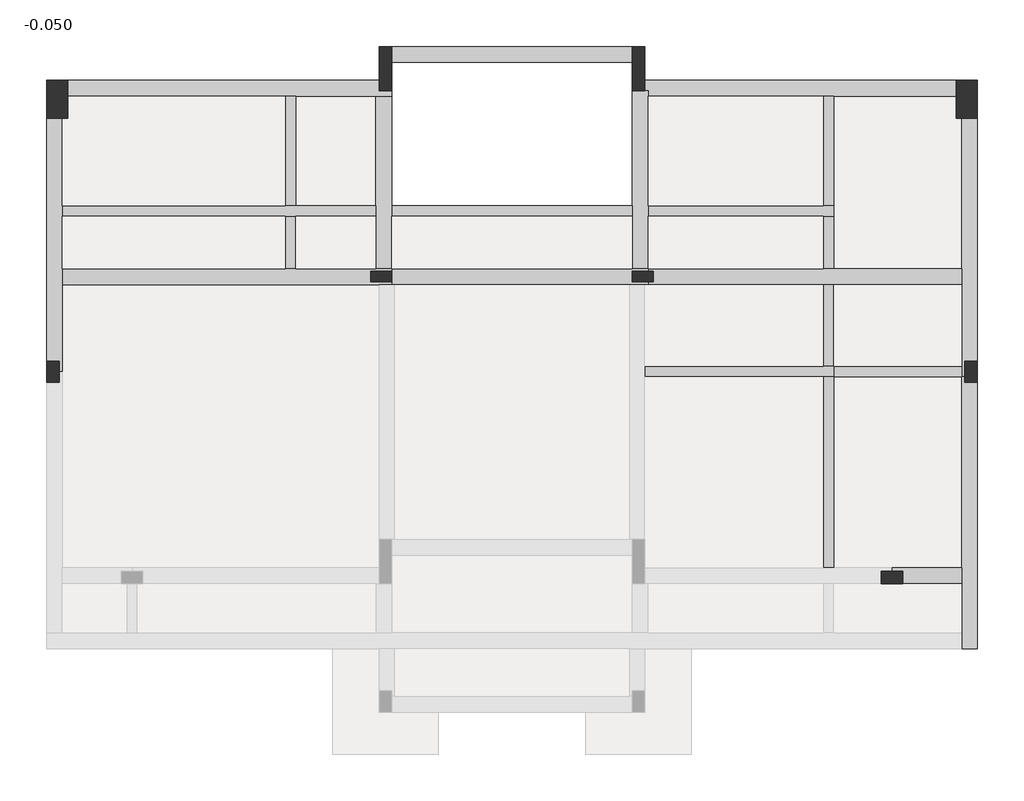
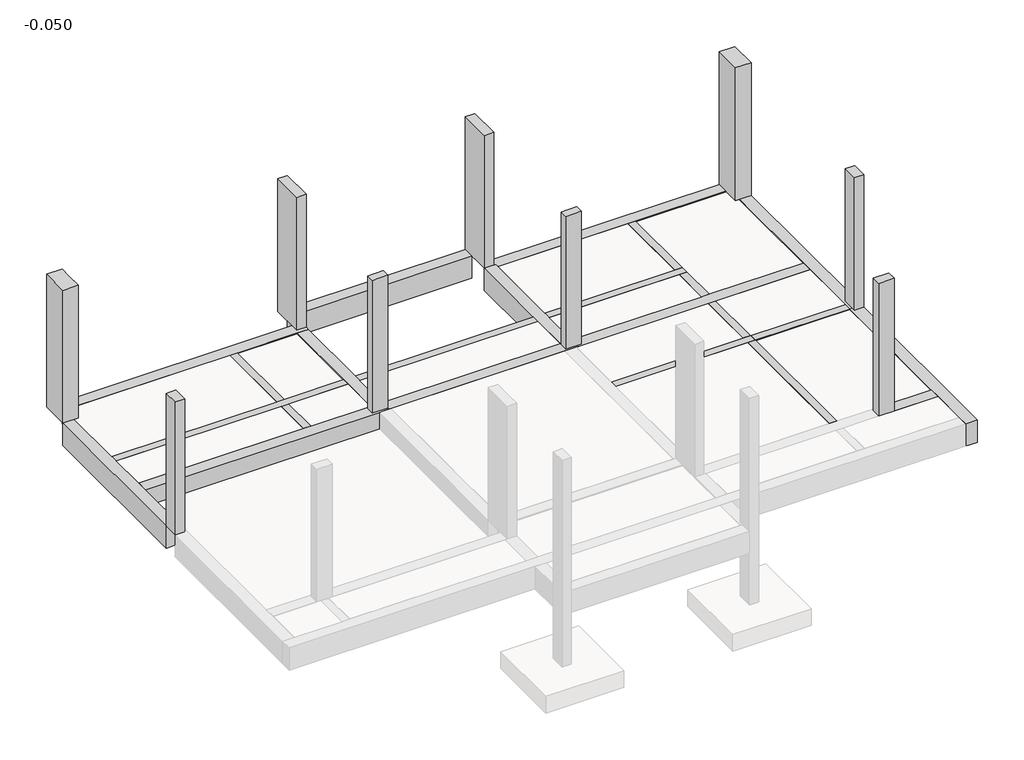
# One storey, part 2 of 2: 23 beams, 9 columns.
"""IFC4 building model written with IfcOpenShell, lengths in millimetres."""

from ifc_helpers import new_model, si_unit, frame, origin, place, context, project, spatial, polyline, outline, extrude, faceted_brep, element, save

model = new_model("IFC4")

# Units and contexts
model_context = context("Model", 3, world=origin())
ifc_project = project(units=[si_unit("LENGTHUNIT", "METRE", prefix="MILLI")], contexts=[model_context])

# Site, building, storey
site = spatial("IfcSite", under=ifc_project)
building = spatial("IfcBuilding", under=site)
storey = spatial("IfcBuildingStorey", under=building, Name="-0.050", Elevation=-50.0)

# Beams
placement = place(None, origin())
element("IfcBeam", 1, ObjectType="混凝土 - 矩形梁 : 200 x 350mm", at=placement, inside=storey, context=model_context, shape_type="Brep", body=[
    faceted_brep([(-13138.804129, 3220.2421091, -50.0), (-13138.804129, 3020.2421091, -50.0), (-8918.804129, 3020.2421091, -50.0), (-8718.804129, 3020.2421091, -50.0), (-7198.804129, 3020.2421091, -50.0), (-7198.804129, 3220.2421091, -50.0), (-8718.804129, 3220.2421091, -50.0), (-8918.804129, 3220.2421091, -50.0), (-13138.804129, 3020.2421091, -150.0), (-13138.804129, 3020.2421091, -400.0), (-8918.804129, 3020.2421091, -400.0), (-8718.804129, 3020.2421091, -400.0), (-7198.804129, 3020.2421091, -400.0), (-7198.804129, 3020.2421091, -150.0), (-13138.804129, 3220.2421091, -400.0), (-8918.804129, 3220.2421091, -400.0), (-8718.804129, 3220.2421091, -400.0), (-7198.804129, 3220.2421091, -400.0), (-13138.804129, 3220.2421091, -150.0), (-7198.804129, 3220.2421091, -70.0), (-7198.804129, 3220.2421091, -170.0)], [[[0, 1, 2, 3, 4, 5, 6, 7]], [[1, 8, 9, 10, 11, 12, 13, 4, 3, 2]], [[9, 14, 15, 16, 17, 12, 11, 10]], [[14, 18, 0, 7, 6, 5, 19, 20, 17, 16, 15]], [[1, 0, 18, 14, 9, 8]], [[5, 4, 13, 12, 17, 20, 19]]]),
])
element("IfcBeam", 2, ObjectType="混凝土 - 矩形梁 : 200 x 350mm", at=placement, inside=storey, context=model_context, shape_type="Brep", body=[
    faceted_brep([(-8718.804129, 5300.2421091, -50.0), (-8918.804129, 5300.2421091, -50.0), (-8918.804129, 3220.2421091, -50.0), (-8718.804129, 3220.2421091, -50.0), (-8918.804129, 5300.2421091, -150.0), (-8918.804129, 5300.2421091, -400.0), (-8918.804129, 3220.2421091, -400.0), (-8918.804129, 3220.2421091, -150.0), (-8718.804129, 5300.2421091, -400.0), (-8718.804129, 3220.2421091, -400.0), (-8718.804129, 5300.2421091, -170.0), (-8718.804129, 5300.2421091, -70.0), (-8718.804129, 3220.2421091, -70.0), (-8718.804129, 3220.2421091, -170.0)], [[[0, 1, 2, 3]], [[1, 4, 5, 6, 7, 2]], [[5, 8, 9, 6]], [[8, 10, 11, 0, 3, 12, 13, 9]], [[1, 0, 11, 10, 8, 5, 4]], [[3, 2, 7, 6, 9, 13, 12]]]),
])
element("IfcBeam", 3, ObjectType="混凝土 - 矩形梁 : 200 x 350mm", at=placement, inside=storey, context=model_context, shape_type="Brep", body=[
    faceted_brep([(-6898.804129, 3220.2421091, -50.0), (-6898.804129, 3020.2421091, -50.0), (-2338.804129, 3020.2421091, -50.0), (-2338.804129, 3220.2421091, -50.0), (-6898.804129, 3020.2421091, -150.0), (-6898.804129, 3020.2421091, -400.0), (-2338.804129, 3020.2421091, -400.0), (-2338.804129, 3020.2421091, -150.0), (-6898.804129, 3220.2421091, -400.0), (-2338.804129, 3220.2421091, -400.0)], [[[0, 1, 2, 3]], [[1, 4, 5, 6, 7, 2]], [[5, 8, 9, 6]], [[8, 0, 3, 9]], [[1, 0, 8, 5, 4]], [[3, 2, 7, 6, 9]]]),
])
element("IfcBeam", 4, ObjectType="混凝土 - 矩形梁 : 200 x 350mm", at=placement, inside=storey, context=model_context, shape_type="Brep", body=[
    faceted_brep([(1481.195871, 3020.2421091, -50.0), (1481.195871, 3220.2421091, -50.0), (1281.195871, 3220.2421091, -50.0), (-2038.804129, 3220.2421091, -50.0), (-2038.804129, 3020.2421091, -50.0), (1281.195871, 3020.2421091, -50.0), (1481.195871, 3020.2421091, -400.0), (-2038.804129, 3020.2421091, -150.0), (-2038.804129, 3020.2421091, -400.0), (1281.195871, 3020.2421091, -400.0), (1481.195871, 3220.2421091, -400.0), (-2038.804129, 3220.2421091, -400.0), (1281.195871, 3220.2421091, -400.0), (-2038.804129, 3220.2421091, -150.0)], [[[0, 1, 2, 3, 4, 5]], [[6, 0, 5, 4, 7, 8, 9]], [[10, 6, 9, 8, 11, 12]], [[1, 10, 12, 11, 13, 3, 2]], [[4, 3, 13, 11, 8, 7]], [[1, 0, 6, 10]]]),
])
element("IfcBeam", 5, ObjectType="混凝土 - 矩形梁 : 200 x 350mm", at=placement, inside=storey, context=model_context, shape_type="Brep", body=[
    faceted_brep([(1481.195871, 5300.2421091, -50.0), (1281.195871, 5300.2421091, -50.0), (1281.195871, 3220.2421091, -50.0), (1481.195871, 3220.2421091, -50.0), (1281.195871, 5300.2421091, -150.0), (1281.195871, 5300.2421091, -400.0), (1281.195871, 3220.2421091, -400.0), (1281.195871, 3220.2421091, -150.0), (1481.195871, 5300.2421091, -400.0), (1481.195871, 3220.2421091, -400.0), (1481.195871, 5300.2421091, -170.0), (1481.195871, 5300.2421091, -70.0)], [[[0, 1, 2, 3]], [[1, 4, 5, 6, 7, 2]], [[5, 8, 9, 6]], [[8, 10, 11, 0, 3, 9]], [[1, 0, 11, 10, 8, 5, 4]], [[3, 2, 7, 6, 9]]]),
])
element("IfcBeam", 6, ObjectType="混凝土 - 矩形梁 : 200 x 350mm", at=placement, inside=storey, context=model_context, shape_type="Brep", body=[
    faceted_brep([(1281.195871, 2030.2421091, -50.0), (1481.195871, 2030.2421091, -50.0), (1481.195871, 3020.2421091, -50.0), (1281.195871, 3020.2421091, -50.0), (1281.195871, 2030.2421091, -400.0), (1281.195871, 2030.2421091, -150.0), (1281.195871, 3020.2421091, -150.0), (1281.195871, 3020.2421091, -400.0), (1481.195871, 2030.2421091, -400.0), (1481.195871, 3020.2421091, -400.0), (1481.195871, 2030.2421091, -70.0), (1481.195871, 2030.2421091, -170.0)], [[[0, 1, 2, 3]], [[4, 5, 0, 3, 6, 7]], [[8, 4, 7, 9]], [[1, 10, 11, 8, 9, 2]], [[1, 0, 5, 4, 8, 11, 10]], [[3, 2, 9, 7, 6]]]),
])
element("IfcBeam", 7, ObjectType="混凝土 - 矩形梁 : 200 x 350mm", at=placement, inside=storey, context=model_context, shape_type="Brep", body=[
    faceted_brep([(-8918.804129, 2030.2421091, -50.0), (-8718.804129, 2030.2421091, -50.0), (-8718.804129, 3020.2421091, -50.0), (-8918.804129, 3020.2421091, -50.0), (-8918.804129, 2030.2421091, -400.0), (-8918.804129, 2030.2421091, -150.0), (-8918.804129, 3020.2421091, -150.0), (-8918.804129, 3020.2421091, -400.0), (-8718.804129, 2030.2421091, -400.0), (-8718.804129, 3020.2421091, -400.0), (-8718.804129, 2030.2421091, -150.0), (-8718.804129, 3020.2421091, -150.0)], [[[0, 1, 2, 3]], [[4, 5, 0, 3, 6, 7]], [[8, 4, 7, 9]], [[1, 10, 8, 9, 11, 2]], [[1, 0, 5, 4, 8, 10]], [[3, 2, 11, 9, 7, 6]]]),
])
element("IfcBeam", 8, ObjectType="混凝土 - 矩形梁 : 200 x 350mm", at=placement, inside=storey, context=model_context, shape_type="Brep", body=[
    faceted_brep([(1481.195871, -19.7578909, -50.0), (1481.195871, 180.2421091, -50.0), (1281.195871, 180.2421091, -50.0), (-2098.804129, 180.2421091, -50.0), (-2098.804129, -19.7578909, -50.0), (1281.195871, -19.7578909, -50.0), (1481.195871, -19.7578909, -400.0), (-2098.804129, -19.7578909, -150.0), (-2098.804129, -19.7578909, -400.0), (1281.195871, -19.7578909, -400.0), (1481.195871, 180.2421091, -400.0), (-2098.804129, 180.2421091, -400.0), (1281.195871, 180.2421091, -400.0), (-2098.804129, 180.2421091, -150.0)], [[[0, 1, 2, 3, 4, 5]], [[6, 0, 5, 4, 7, 8, 9]], [[10, 6, 9, 8, 11, 12]], [[1, 10, 12, 11, 13, 3, 2]], [[4, 3, 13, 11, 8, 7]], [[1, 0, 6, 10]]]),
])
element("IfcBeam", 9, ObjectType="混凝土 - 矩形梁 : 200 x 350mm", at=placement, inside=storey, context=model_context, shape_type="Brep", body=[
    faceted_brep([(3901.195871, -19.7578909, -50.0), (3901.195871, 180.2421091, -50.0), (1481.195871, 180.2421091, -50.0), (1481.195871, -19.7578909, -50.0), (3901.195871, -19.7578909, -400.0), (3901.195871, -19.7578909, -170.0), (3901.195871, -19.7578909, -70.0), (1481.195871, -19.7578909, -70.0), (1481.195871, -19.7578909, -170.0), (1481.195871, -19.7578909, -400.0), (3901.195871, 180.2421091, -400.0), (1481.195871, 180.2421091, -400.0), (3901.195871, 180.2421091, -150.0), (1481.195871, 180.2421091, -150.0)], [[[0, 1, 2, 3]], [[4, 5, 6, 0, 3, 7, 8, 9]], [[10, 4, 9, 11]], [[1, 12, 10, 11, 13, 2]], [[1, 0, 6, 5, 4, 10, 12]], [[3, 2, 13, 11, 9, 8, 7]]]),
])
element("IfcBeam", 10, ObjectType="混凝土 - 矩形梁 : 200 x 350mm", at=placement, inside=storey, context=model_context, shape_type="Brep", body=[
    faceted_brep([(1281.195871, 180.2421091, -50.0), (1481.195871, 180.2421091, -50.0), (1481.195871, 1730.2421091, -50.0), (1281.195871, 1730.2421091, -50.0), (1281.195871, 180.2421091, -400.0), (1281.195871, 180.2421091, -150.0), (1281.195871, 1730.2421091, -150.0), (1281.195871, 1730.2421091, -400.0), (1481.195871, 180.2421091, -400.0), (1481.195871, 1730.2421091, -400.0), (1481.195871, 180.2421091, -150.0), (1481.195871, 1730.2421091, -150.0)], [[[0, 1, 2, 3]], [[4, 5, 0, 3, 6, 7]], [[8, 4, 7, 9]], [[1, 10, 8, 9, 11, 2]], [[1, 0, 5, 4, 8, 10]], [[3, 2, 11, 9, 7, 6]]]),
])
element("IfcBeam", 11, ObjectType="混凝土 - 矩形梁 : 200 x 350mm", at=placement, inside=storey, context=model_context, shape_type="Brep", body=[
    faceted_brep([(1481.195871, -19.7578909, -50.0), (1281.195871, -19.7578909, -50.0), (1281.195871, -3639.7578909, -50.0), (1481.195871, -3639.7578909, -50.0), (1281.195871, -19.7578909, -150.0), (1281.195871, -19.7578909, -400.0), (1281.195871, -3639.7578909, -400.0), (1281.195871, -3639.7578909, -150.0), (1481.195871, -19.7578909, -400.0), (1481.195871, -3639.7578909, -400.0), (1481.195871, -19.7578909, -170.0), (1481.195871, -19.7578909, -70.0), (1481.195871, -3639.7578909, -70.0), (1481.195871, -3639.7578909, -170.0)], [[[0, 1, 2, 3]], [[1, 4, 5, 6, 7, 2]], [[5, 8, 9, 6]], [[8, 10, 11, 0, 3, 12, 13, 9]], [[1, 0, 11, 10, 8, 5, 4]], [[3, 2, 7, 6, 9, 13, 12]]]),
])
element("IfcBeam", 12, ObjectType="混凝土 - 矩形梁 : 300 x 600mm", at=placement, inside=storey, context=model_context, shape_type="Brep", body=[
    faceted_brep([(-13038.804129, 5600.2421091, -50.0), (-13038.804129, 5600.2421091, -650.0), (-13038.804129, 5400.2421091, -650.0), (-13038.804129, 5300.2421091, -650.0), (-13038.804129, 5300.2421091, -150.0), (-13038.804129, 5300.2421091, -50.0), (-8918.804129, 5300.2421091, -50.0), (-8718.804129, 5300.2421091, -50.0), (-7198.804129, 5300.2421091, -50.0), (-6898.804129, 5300.2421091, -50.0), (-6898.804129, 5400.2421091, -50.0), (-7138.804129, 5400.2421091, -50.0), (-7138.804129, 5600.2421091, -50.0), (-7198.804129, 5300.2421091, -650.0), (-6898.804129, 5300.2421091, -650.0), (-7138.804129, 5600.2421091, -650.0), (-7138.804129, 5400.2421091, -650.0), (-6898.804129, 5400.2421091, -650.0)], [[[0, 1, 2, 3, 4, 5]], [[0, 5, 6, 7, 8, 9, 10, 11, 12]], [[5, 4, 3, 13, 14, 9, 8, 7, 6]], [[3, 2, 1, 15, 16, 17, 14, 13]], [[1, 0, 12, 15]], [[16, 11, 10, 17]], [[11, 16, 15, 12]], [[9, 14, 17, 10]]]),
])
element("IfcBeam", 13, ObjectType="混凝土 - 矩形梁 : 300 x 600mm", at=placement, inside=storey, context=model_context, shape_type="Brep", body=[
    faceted_brep([(-2338.804129, 6240.2421091, -50.0), (-2338.804129, 5940.2421091, -50.0), (-2338.804129, 5940.2421091, -650.0), (-2338.804129, 6027.4610605, -650.0), (-2338.804129, 6227.4610605, -650.0), (-2338.804129, 6240.2421091, -650.0), (-6898.804129, 6240.2421091, -50.0), (-6898.804129, 5940.2421091, -50.0), (-6898.804129, 5940.2421091, -650.0), (-6898.804129, 6027.4610605, -650.0), (-6898.804129, 6227.4610605, -650.0), (-6898.804129, 6240.2421091, -650.0)], [[[0, 1, 2, 3, 4, 5]], [[1, 0, 6, 7]], [[2, 1, 7, 8]], [[5, 4, 3, 2, 8, 9, 10, 11]], [[0, 5, 11, 6]], [[6, 11, 10, 9, 8, 7]]]),
])
element("IfcBeam", 14, ObjectType="混凝土 - 矩形梁 : 300 x 600mm", at=placement, inside=storey, context=model_context, shape_type="Brep", body=[
    faceted_brep([(3801.195871, 5600.2421091, -50.0), (3801.195871, 5300.2421091, -50.0), (3801.195871, 5300.2421091, -70.0), (3801.195871, 5300.2421091, -170.0), (3801.195871, 5300.2421091, -650.0), (3801.195871, 5400.2421091, -650.0), (3801.195871, 5600.2421091, -650.0), (-2098.804129, 5600.2421091, -50.0), (-2098.804129, 5400.2421091, -50.0), (-2038.804129, 5400.2421091, -50.0), (-2038.804129, 5300.2421091, -50.0), (1281.195871, 5300.2421091, -50.0), (1481.195871, 5300.2421091, -50.0), (-2038.804129, 5300.2421091, -150.0), (-2038.804129, 5300.2421091, -650.0), (-2038.804129, 5400.2421091, -650.0), (-2098.804129, 5400.2421091, -650.0), (-2098.804129, 5600.2421091, -650.0)], [[[0, 1, 2, 3, 4, 5, 6]], [[1, 0, 7, 8, 9, 10, 11, 12]], [[4, 3, 2, 1, 12, 11, 10, 13, 14]], [[6, 5, 4, 14, 15, 16, 17]], [[0, 6, 17, 7]], [[7, 17, 16, 8]], [[9, 15, 14, 13, 10]], [[15, 9, 8, 16]]]),
])
element("IfcBeam", 15, ObjectType="混凝土 - 矩形梁 : 300 x 600mm", at=placement, inside=storey, context=model_context, shape_type="Brep", body=[
    faceted_brep([(4201.195871, 4880.2421091, -50.0), (3901.195871, 4880.2421091, -50.0), (3901.195871, 2030.2421091, -50.0), (3901.195871, 1730.2421091, -50.0), (3901.195871, 180.2421091, -50.0), (3901.195871, -19.7578909, -50.0), (3961.195871, -19.7578909, -50.0), (3961.195871, 280.2421091, -50.0), (4201.195871, 280.2421091, -50.0), (3901.195871, 4880.2421091, -70.0), (3901.195871, 4880.2421091, -170.0), (3901.195871, 4880.2421091, -650.0), (3901.195871, 2030.2421091, -650.0), (3901.195871, 1730.2421091, -650.0), (3901.195871, -19.7578909, -650.0), (3901.195871, -19.7578909, -400.0), (4001.195871, 4880.2421091, -650.0), (4201.195871, 4880.2421091, -650.0), (4201.195871, 280.2421091, -650.0), (4001.195871, 280.2421091, -650.0), (3961.195871, 280.2421091, -650.0), (3961.195871, -19.7578909, -650.0)], [[[0, 1, 2, 3, 4, 5, 6, 7, 8]], [[1, 9, 10, 11, 12, 13, 14, 15, 5, 4, 3, 2]], [[11, 16, 17, 18, 19, 20, 21, 14, 13, 12]], [[17, 0, 8, 18]], [[20, 7, 6, 21]], [[7, 20, 19, 18, 8]], [[0, 17, 16, 11, 10, 9, 1]], [[5, 15, 14, 21, 6]]]),
])
element("IfcBeam", 16, ObjectType="混凝土 - 矩形梁 : 300 x 600mm", at=placement, inside=storey, context=model_context, shape_type="Brep", body=[
    faceted_brep([(3901.195871, -5169.7578909, -50.0), (4201.195871, -5169.7578909, -50.0), (4201.195871, -119.7578909, -50.0), (3961.195871, -119.7578909, -50.0), (3961.195871, -19.7578909, -50.0), (3901.195871, -19.7578909, -50.0), (3901.195871, -3639.7578909, -50.0), (3901.195871, -3939.7578909, -50.0), (3901.195871, -4869.7578909, -50.0), (3901.195871, -5169.7578909, -650.0), (3901.195871, -19.7578909, -70.0), (3901.195871, -19.7578909, -170.0), (3901.195871, -19.7578909, -650.0), (3901.195871, -3639.7578909, -650.0), (3901.195871, -3939.7578909, -650.0), (3901.195871, -4869.7578909, -650.0), (4201.195871, -5169.7578909, -650.0), (3961.195871, -19.7578909, -650.0), (3961.195871, -119.7578909, -650.0), (4001.195871, -119.7578909, -650.0), (4201.195871, -119.7578909, -650.0), (4201.195871, -3739.7578909, -650.0)], [[[0, 1, 2, 3, 4, 5, 6, 7, 8]], [[9, 0, 8, 7, 6, 5, 10, 11, 12, 13, 14, 15]], [[16, 9, 15, 14, 13, 12, 17, 18, 19, 20, 21]], [[1, 16, 21, 20, 2]], [[18, 3, 2, 20, 19]], [[3, 18, 17, 4]], [[1, 0, 9, 16]], [[4, 17, 12, 11, 10, 5]]]),
])
element("IfcBeam", 17, ObjectType="混凝土 - 矩形梁 : 300 x 600mm", at=placement, inside=storey, context=model_context, shape_type="Brep", body=[
    faceted_brep([(2581.195871, -3699.7578909, -50.0), (2781.195871, -3699.7578909, -50.0), (2781.195871, -3939.7578909, -50.0), (3901.195871, -3939.7578909, -50.0), (3901.195871, -3639.7578909, -50.0), (2581.195871, -3639.7578909, -50.0), (2581.195871, -3639.7578909, -650.0), (3901.195871, -3639.7578909, -70.0), (3901.195871, -3639.7578909, -170.0), (3901.195871, -3639.7578909, -650.0), (2781.195871, -3699.7578909, -650.0), (2581.195871, -3699.7578909, -650.0), (3901.195871, -3939.7578909, -650.0), (2781.195871, -3939.7578909, -650.0), (2781.195871, -3739.7578909, -650.0), (3901.195871, -3939.7578909, -150.0)], [[[0, 1, 2, 3, 4, 5]], [[6, 5, 4, 7, 8, 9]], [[10, 11, 6, 9, 12, 13, 14]], [[2, 13, 12, 15, 3]], [[10, 1, 0, 11]], [[1, 10, 14, 13, 2]], [[4, 3, 15, 12, 9, 8, 7]], [[5, 6, 11, 0]]]),
])
element("IfcBeam", 18, ObjectType="混凝土 - 矩形梁 : 300 x 600mm", at=placement, inside=storey, context=model_context, shape_type="Brep", body=[
    faceted_brep([(-13438.804129, 4880.2421091, -50.0), (-13138.804129, 4880.2421091, -50.0), (-13138.804129, 4880.2421091, -150.0), (-13138.804129, 4880.2421091, -650.0), (-13238.804129, 4880.2421091, -650.0), (-13438.804129, 4880.2421091, -650.0), (-13438.804129, 280.2421091, -50.0), (-13198.804129, 280.2421091, -50.0), (-13198.804129, 80.2421091, -50.0), (-13138.804129, 80.2421091, -50.0), (-13138.804129, 1730.2421091, -50.0), (-13138.804129, 2030.2421091, -50.0), (-13138.804129, 3020.2421091, -50.0), (-13138.804129, 3220.2421091, -50.0), (-13138.804129, 80.2421091, -650.0), (-13138.804129, 1730.2421091, -650.0), (-13138.804129, 2030.2421091, -650.0), (-13198.804129, 80.2421091, -650.0), (-13198.804129, 280.2421091, -650.0), (-13238.804129, 280.2421091, -650.0), (-13438.804129, 280.2421091, -650.0)], [[[0, 1, 2, 3, 4, 5]], [[1, 0, 6, 7, 8, 9, 10, 11, 12, 13]], [[3, 2, 1, 13, 12, 11, 10, 9, 14, 15, 16]], [[5, 4, 3, 16, 15, 14, 17, 18, 19, 20]], [[0, 5, 20, 6]], [[14, 9, 8, 17]], [[7, 18, 17, 8]], [[18, 7, 6, 20, 19]]]),
])
element("IfcBeam", 19, ObjectType="混凝土 - 矩形梁 : 300 x 600mm", at=placement, inside=storey, context=model_context, shape_type="Brep", body=[
    faceted_brep([(-7298.804129, 1980.2421091, -50.0), (-6898.804129, 1980.2421091, -50.0), (-6898.804129, 2030.2421091, -50.0), (-7198.804129, 2030.2421091, -50.0), (-8718.804129, 2030.2421091, -50.0), (-8918.804129, 2030.2421091, -50.0), (-13138.804129, 2030.2421091, -50.0), (-13138.804129, 1730.2421091, -50.0), (-7138.804129, 1730.2421091, -50.0), (-6898.804129, 1730.2421091, -50.0), (-6898.804129, 1780.2421091, -50.0), (-7298.804129, 1780.2421091, -50.0), (-6898.804129, 2030.2421091, -650.0), (-7198.804129, 2030.2421091, -650.0), (-13138.804129, 2030.2421091, -650.0), (-13138.804129, 2030.2421091, -150.0), (-6898.804129, 1980.2421091, -650.0), (-7298.804129, 1980.2421091, -650.0), (-7298.804129, 1780.2421091, -650.0), (-6898.804129, 1780.2421091, -650.0), (-6898.804129, 1730.2421091, -650.0), (-7138.804129, 1730.2421091, -650.0), (-13138.804129, 1730.2421091, -650.0), (-13138.804129, 1730.2421091, -500.0)], [[[0, 1, 2, 3, 4, 5, 6, 7, 8, 9, 10, 11]], [[2, 12, 13, 14, 15, 6, 5, 4, 3]], [[16, 17, 18, 19, 20, 21, 22, 14, 13, 12]], [[20, 9, 8, 7, 23, 22, 21]], [[0, 17, 16, 1]], [[18, 11, 10, 19]], [[11, 18, 17, 0]], [[7, 6, 15, 14, 22, 23]], [[12, 2, 1, 16]], [[9, 20, 19, 10]]]),
])
element("IfcBeam", 20, ObjectType="混凝土 - 矩形梁 : 300 x 600mm", at=placement, inside=storey, context=model_context, shape_type="Brep", body=[
    faceted_brep([(-6898.804129, 2030.2421091, -50.0), (-6898.804129, 1980.2421091, -50.0), (-6898.804129, 1780.2421091, -50.0), (-6898.804129, 1730.2421091, -50.0), (-6838.804129, 1730.2421091, -50.0), (-2398.804129, 1730.2421091, -50.0), (-2098.804129, 1730.2421091, -50.0), (-2038.804129, 1730.2421091, -50.0), (-2038.804129, 1780.2421091, -50.0), (-2338.804129, 1780.2421091, -50.0), (-2338.804129, 1980.2421091, -50.0), (-2038.804129, 1980.2421091, -50.0), (-2038.804129, 2030.2421091, -50.0), (-2338.804129, 2030.2421091, -50.0), (-2038.804129, 1730.2421091, -650.0), (-6898.804129, 1730.2421091, -650.0), (-6838.804129, 1730.2421091, -650.0), (-2398.804129, 1730.2421091, -650.0), (-2098.804129, 1730.2421091, -650.0), (-6898.804129, 1780.2421091, -650.0), (-6898.804129, 1980.2421091, -650.0), (-6898.804129, 2030.2421091, -650.0), (-2338.804129, 2030.2421091, -650.0), (-2038.804129, 2030.2421091, -650.0), (-2038.804129, 1980.2421091, -650.0), (-2338.804129, 1980.2421091, -650.0), (-2338.804129, 1780.2421091, -650.0), (-2038.804129, 1780.2421091, -650.0), (-6898.804129, 2030.2421091, -150.0)], [[[0, 1, 2, 3, 4, 5, 6, 7, 8, 9, 10, 11, 12, 13]], [[14, 7, 6, 5, 4, 3, 15, 16, 17, 18]], [[15, 19, 20, 21, 22, 23, 24, 25, 26, 27, 14, 18, 17, 16]], [[21, 28, 0, 13, 12, 23, 22]], [[0, 28, 21, 20, 19, 15, 3, 2, 1]], [[10, 25, 24, 11]], [[26, 9, 8, 27]], [[9, 26, 25, 10]], [[23, 12, 11, 24]], [[7, 14, 27, 8]]]),
])
element("IfcBeam", 21, ObjectType="混凝土 - 矩形梁 : 300 x 600mm", at=placement, inside=storey, context=model_context, shape_type="Brep", body=[
    faceted_brep([(3901.195871, 1730.2421091, -50.0), (3901.195871, 2030.2421091, -50.0), (1481.195871, 2030.2421091, -50.0), (1281.195871, 2030.2421091, -50.0), (-2038.804129, 2030.2421091, -50.0), (-2038.804129, 1980.2421091, -50.0), (-1938.804129, 1980.2421091, -50.0), (-1938.804129, 1780.2421091, -50.0), (-2038.804129, 1780.2421091, -50.0), (-2038.804129, 1730.2421091, -50.0), (1281.195871, 1730.2421091, -50.0), (1481.195871, 1730.2421091, -50.0), (3901.195871, 1730.2421091, -650.0), (3901.195871, 1730.2421091, -150.0), (-2038.804129, 1730.2421091, -650.0), (3901.195871, 2030.2421091, -650.0), (-2038.804129, 1780.2421091, -650.0), (-1938.804129, 1780.2421091, -650.0), (-1938.804129, 1980.2421091, -650.0), (-2038.804129, 1980.2421091, -650.0), (-2038.804129, 2030.2421091, -650.0), (3901.195871, 2030.2421091, -70.0), (3901.195871, 2030.2421091, -170.0), (-2038.804129, 2030.2421091, -150.0)], [[[0, 1, 2, 3, 4, 5, 6, 7, 8, 9, 10, 11]], [[12, 13, 0, 11, 10, 9, 14]], [[15, 12, 14, 16, 17, 18, 19, 20]], [[1, 21, 22, 15, 20, 23, 4, 3, 2]], [[18, 6, 5, 19]], [[6, 18, 17, 7]], [[7, 17, 16, 8]], [[1, 0, 13, 12, 15, 22, 21]], [[5, 4, 23, 20, 19]], [[9, 8, 16, 14]]]),
])
element("IfcBeam", 22, ObjectType="混凝土 - 矩形梁 : 300 x 600mm", at=placement, inside=storey, context=model_context, shape_type="Brep", body=[
    faceted_brep([(-7198.804129, 2030.2421091, -50.0), (-6898.804129, 2030.2421091, -50.0), (-6898.804129, 3020.2421091, -50.0), (-6898.804129, 3220.2421091, -50.0), (-6898.804129, 5300.2421091, -50.0), (-7198.804129, 5300.2421091, -50.0), (-7198.804129, 3220.2421091, -50.0), (-7198.804129, 3020.2421091, -50.0), (-7198.804129, 2030.2421091, -650.0), (-7198.804129, 2030.2421091, -150.0), (-7198.804129, 5300.2421091, -70.0), (-7198.804129, 5300.2421091, -170.0), (-7198.804129, 5300.2421091, -650.0), (-6898.804129, 2030.2421091, -650.0), (-6898.804129, 5300.2421091, -650.0), (-6898.804129, 2030.2421091, -150.0)], [[[0, 1, 2, 3, 4, 5, 6, 7]], [[8, 9, 0, 7, 6, 5, 10, 11, 12]], [[13, 8, 12, 14]], [[1, 15, 13, 14, 4, 3, 2]], [[1, 0, 9, 8, 13, 15]], [[5, 4, 14, 12, 11, 10]]]),
])
element("IfcBeam", 23, ObjectType="混凝土 - 矩形梁 : 300 x 600mm", at=placement, inside=storey, context=model_context, shape_type="Brep", body=[
    faceted_brep([(-2338.804129, 5400.2421091, -650.0), (-2338.804129, 5400.2421091, -50.0), (-2098.804129, 5400.2421091, -50.0), (-2038.804129, 5400.2421091, -50.0), (-2038.804129, 5400.2421091, -650.0), (-2098.804129, 5400.2421091, -650.0), (-2338.804129, 3220.2421091, -50.0), (-2338.804129, 3020.2421091, -50.0), (-2338.804129, 2030.2421091, -50.0), (-2038.804129, 2030.2421091, -50.0), (-2038.804129, 3020.2421091, -50.0), (-2038.804129, 3220.2421091, -50.0), (-2038.804129, 5300.2421091, -50.0), (-2038.804129, 2030.2421091, -150.0), (-2038.804129, 2030.2421091, -650.0), (-2038.804129, 5300.2421091, -650.0), (-2338.804129, 2030.2421091, -650.0), (-2338.804129, 2030.2421091, -150.0)], [[[0, 1, 2, 3, 4, 5]], [[3, 2, 1, 6, 7, 8, 9, 10, 11, 12]], [[4, 3, 12, 11, 10, 9, 13, 14, 15]], [[0, 5, 4, 15, 14, 16]], [[1, 0, 16, 17, 8, 7, 6]], [[9, 8, 17, 16, 14, 13]]]),
])

# Columns
element("IfcColumn", 24, ObjectType="混凝土 - 矩形 - 柱 : 200 x 400mm", at=placement, inside=storey, context=model_context, shape_type="SweptSolid", body=[
    extrude(outline(polyline([(-7298.804129, 1980.2421091), (-6898.804129, 1980.2421091), (-6898.804129, 1780.2421091), (-7298.804129, 1780.2421091), (-7298.804129, 1980.2421091)])), frame((0.0, 0.0, -50.0), z_axis=(0.0, 0.0, 1.0), x_axis=(1.0, 0.0, 0.0)), (0.0, 0.0, 1.0), 3600.0),
])
element("IfcColumn", 25, ObjectType="混凝土 - 矩形 - 柱 : 200 x 400mm", at=placement, inside=storey, context=model_context, shape_type="SweptSolid", body=[
    extrude(outline(polyline([(-2338.804129, 1980.2421091), (-1938.804129, 1980.2421091), (-1938.804129, 1780.2421091), (-2338.804129, 1780.2421091), (-2338.804129, 1980.2421091)])), frame((0.0, 0.0, -50.0), z_axis=(0.0, 0.0, 1.0), x_axis=(1.0, 0.0, 0.0)), (0.0, 0.0, 1.0), 3600.0),
])
element("IfcColumn", 26, ObjectType="混凝土 - 矩形 - 柱 : 240 x 400mm", at=placement, inside=storey, context=model_context, shape_type="Brep", body=[
    faceted_brep([(-13198.804129, 280.2421091, -50.0), (-13198.804129, -119.7578909, -50.0), (-13438.804129, -119.7578909, -50.0), (-13438.804129, 280.2421091, -50.0), (-13198.804129, 280.2421091, 3550.0), (-13198.804129, 80.2421091, 3550.0), (-13198.804129, -119.7578909, 3550.0), (-13198.804129, -119.7578909, 2950.0), (-13438.804129, -119.7578909, 3550.0), (-13438.804129, -119.7578909, 2950.0), (-13438.804129, 280.2421091, 3550.0)], [[[0, 1, 2, 3]], [[4, 5, 6, 7, 1, 0]], [[6, 8, 9, 2, 1, 7]], [[8, 10, 3, 2, 9]], [[10, 4, 0, 3]], [[4, 10, 8, 6, 5]]]),
])
element("IfcColumn", 27, ObjectType="混凝土 - 矩形 - 柱 : 240 x 400mm", at=placement, inside=storey, context=model_context, shape_type="SweptSolid", body=[
    extrude(outline(polyline([(4201.195871, 280.2421091), (4201.195871, -119.7578909), (3961.195871, -119.7578909), (3961.195871, 280.2421091), (4201.195871, 280.2421091)])), frame((0.0, 0.0, -50.0), z_axis=(0.0, 0.0, 1.0), x_axis=(1.0, 0.0, 0.0)), (0.0, 0.0, 1.0), 3600.0),
])
element("IfcColumn", 28, ObjectType="混凝土 - 矩形 - 柱 : 240 x 400mm", at=placement, inside=storey, context=model_context, shape_type="Brep", body=[
    faceted_brep([(2381.195871, -3699.7578909, -50.0), (2781.195871, -3699.7578909, -50.0), (2781.195871, -3939.7578909, -50.0), (2381.195871, -3939.7578909, -50.0), (2381.195871, -3699.7578909, 3550.0), (2781.195871, -3699.7578909, 3550.0), (2781.195871, -3939.7578909, 3550.0), (2681.195871, -3939.7578909, 3550.0), (2381.195871, -3939.7578909, 3550.0)], [[[0, 1, 2, 3]], [[4, 5, 1, 0]], [[5, 6, 2, 1]], [[6, 7, 8, 3, 2]], [[8, 4, 0, 3]], [[4, 8, 7, 6, 5]]]),
])
element("IfcColumn", 29, ObjectType="混凝土 - 矩形 - 柱 : 240 x 840mm", at=placement, inside=storey, context=model_context, shape_type="SweptSolid", body=[
    extrude(outline(polyline([(-6898.804129, 6240.2421091), (-6898.804129, 5400.2421091), (-7138.804129, 5400.2421091), (-7138.804129, 6240.2421091), (-6898.804129, 6240.2421091)])), frame((0.0, 0.0, -50.0), z_axis=(0.0, 0.0, 1.0), x_axis=(1.0, 0.0, 0.0)), (0.0, 0.0, 1.0), 3600.0),
])
element("IfcColumn", 30, ObjectType="混凝土 - 矩形 - 柱 : 240 x 840mm", at=placement, inside=storey, context=model_context, shape_type="Brep", body=[
    faceted_brep([(-2098.804129, 6240.2421091, -50.0), (-2098.804129, 5400.2421091, -50.0), (-2338.804129, 5400.2421091, -50.0), (-2338.804129, 6240.2421091, -50.0), (-2098.804129, 6240.2421091, 3550.0), (-2098.804129, 5400.2421091, 3550.0), (-2338.804129, 5400.2421091, 3550.0), (-2338.804129, 5400.2421091, 2950.0), (-2338.804129, 6240.2421091, 3550.0)], [[[0, 1, 2, 3]], [[4, 5, 1, 0]], [[5, 6, 7, 2, 1]], [[6, 8, 3, 2, 7]], [[8, 4, 0, 3]], [[4, 8, 6, 5]]]),
])
element("IfcColumn", 31, ObjectType="混凝土 - 矩形 - 柱 : 400 x 720mm", at=placement, inside=storey, context=model_context, shape_type="Brep", body=[
    faceted_brep([(-13038.804129, 5600.2421091, -50.0), (-13038.804129, 4880.2421091, -50.0), (-13438.804129, 4880.2421091, -50.0), (-13438.804129, 5600.2421091, -50.0), (-13038.804129, 5600.2421091, 2950.0), (-13038.804129, 5600.2421091, 3550.0), (-13038.804129, 5300.2421091, 3550.0), (-13038.804129, 4880.2421091, 3550.0), (-13038.804129, 4880.2421091, 3450.0), (-13138.804129, 4880.2421091, 3550.0), (-13438.804129, 4880.2421091, 3550.0), (-13438.804129, 4880.2421091, 2950.0), (-13438.804129, 5600.2421091, 3550.0)], [[[0, 1, 2, 3]], [[1, 0, 4, 5, 6, 7, 8]], [[2, 1, 8, 7, 9, 10, 11]], [[3, 2, 11, 10, 12]], [[0, 3, 12, 5, 4]], [[12, 10, 9, 7, 6, 5]]]),
])
element("IfcColumn", 32, ObjectType="混凝土 - 矩形 - 柱 : 400 x 720mm", at=placement, inside=storey, context=model_context, shape_type="Brep", body=[
    faceted_brep([(4201.195871, 5600.2421091, -50.0), (4201.195871, 4880.2421091, -50.0), (3801.195871, 4880.2421091, -50.0), (3801.195871, 5600.2421091, -50.0), (4201.195871, 5600.2421091, 3550.0), (4201.195871, 4880.2421091, 3550.0), (3801.195871, 4880.2421091, 3550.0), (3801.195871, 4880.2421091, 3520.0), (3801.195871, 4880.2421091, 3420.0), (3801.195871, 5300.2421091, 3550.0), (3801.195871, 5600.2421091, 3550.0), (3801.195871, 5600.2421091, 2950.0)], [[[0, 1, 2, 3]], [[1, 0, 4, 5]], [[2, 1, 5, 6, 7, 8]], [[3, 2, 8, 7, 6, 9, 10, 11]], [[0, 3, 11, 10, 4]], [[5, 4, 10, 9, 6]]]),
])

save(model, "model.ifc")
